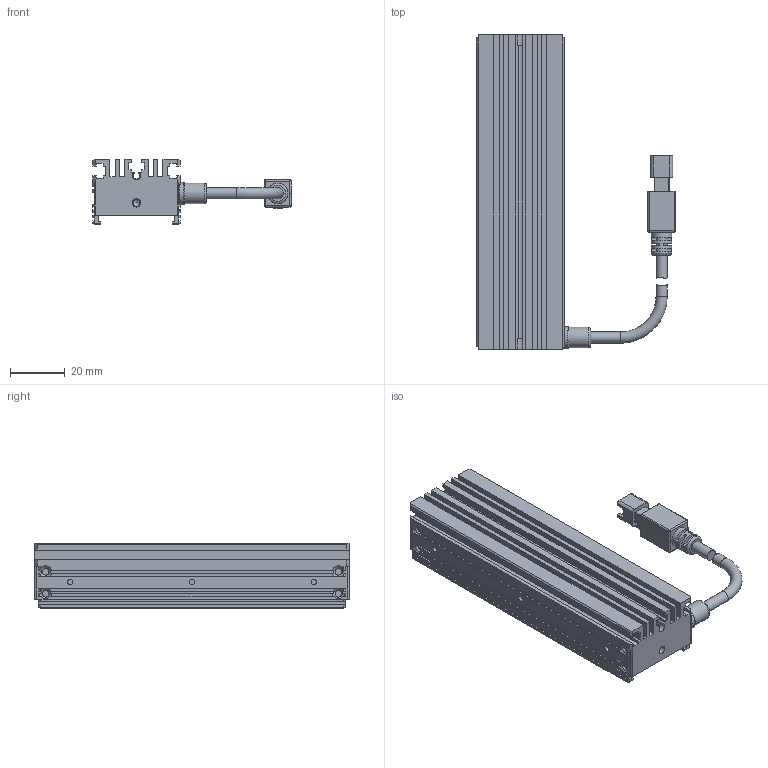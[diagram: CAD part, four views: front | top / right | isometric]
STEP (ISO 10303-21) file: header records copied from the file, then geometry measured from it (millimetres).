
FILE_DESCRIPTION (( 'STEP AP203' ), '1' );
FILE_NAME ('OPT-ILI11532-IR-V1.0尨砩芞.STEP', '2025-01-18T07:46:37', ( '' ), ( '' ), 'SwSTEP 2.0', 'SolidWorks 2016', '' );
FILE_SCHEMA (( 'CONFIG_CONTROL_DESIGN' ));
Length unit declared in the file: millimetre
Products named in the file (1): OPT-ILI11532-IR-V1.0尨砩芞
Bounding box: 72.6 x 115 x 24 mm (x, y, z)
Volume: 64988 mm3; surface area: 32024.4 mm2
Topology: 5 solids, 13 shells, 588 faces, 1536 edges, 984 vertices
Faces by surface type: plane 398, cylinder 132, cone 28, bspline 20, torus 10
Full cylindrical faces by diameter (mm): 1.1 x2, 1.4 x2, 1.6 x7, 2 x13, 2.4 x7, 2.5 x2, 3 x2, 3.5 x1, 4.1 x3, 7.5 x2, 8 x1
Entity records: 18091 total; most frequent: CARTESIAN_POINT 4167, ORIENTED_EDGE 2870, DIRECTION 2754, EDGE_CURVE 1435, VECTOR 986, LINE 986, VERTEX_POINT 955, AXIS2_PLACEMENT_3D 884
